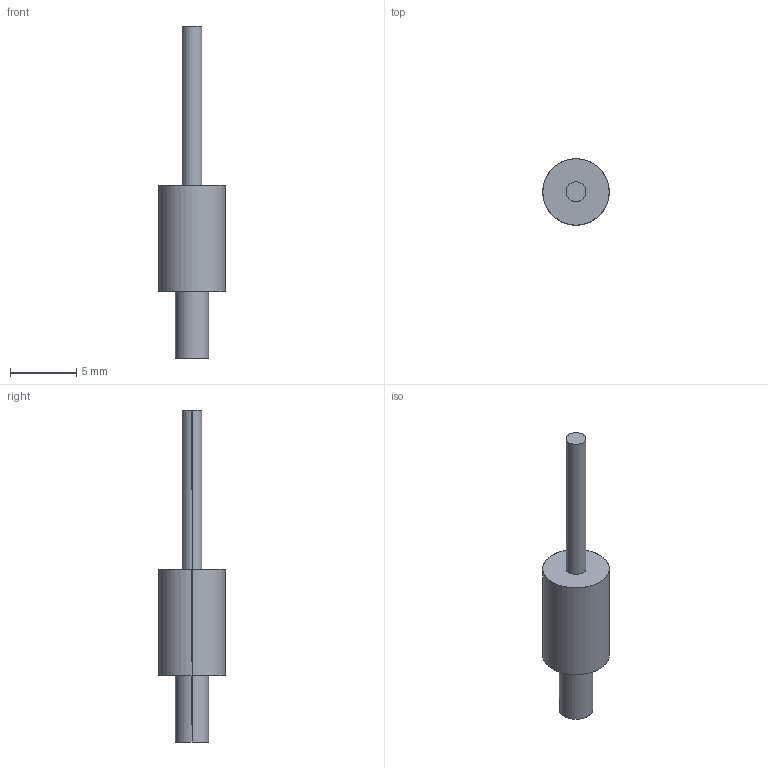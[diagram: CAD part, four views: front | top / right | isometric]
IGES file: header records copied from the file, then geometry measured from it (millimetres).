
Start section: SolidWorks IGES file using analytic representation for surfaces
Global section: file name: C:\Users\panasonic\Desktop\catalog\3d\tr-s321-h\tr-s321-h.IGS; native system: SolidWorks 2014; preprocessor: SolidWorks 2014; author: C0909; date: 161007.103524; units: millimetre
Bounding box: 5 x 5 x 25 mm (x, y, z)
Surface area: 260.8 mm2 (no closed solid volume)
Topology: 0 solids, 0 shells, 10 faces, 184 edges, 184 vertices
Faces by surface type: revolution 6, bspline 4
